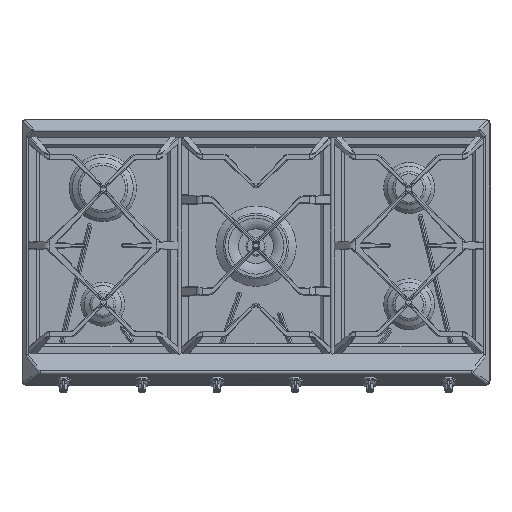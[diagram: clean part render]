
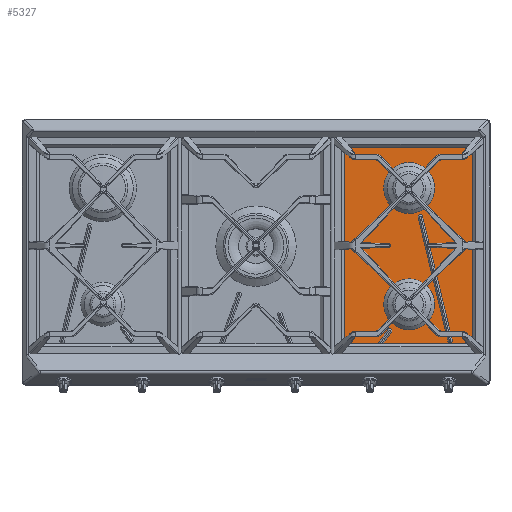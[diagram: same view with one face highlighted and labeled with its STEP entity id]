
A CAD part, top view. The second image highlights one B-rep face of the part: STEP entity #5327.
In plain terms, the highlighted planar face has unit normal (0, 0, 1).
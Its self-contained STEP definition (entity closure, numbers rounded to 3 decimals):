
#1300=LINE('',#31374,#2788);
#1301=LINE('',#31378,#2789);
#1302=LINE('',#31382,#2790);
#1303=LINE('',#31386,#2791);
#1304=LINE('',#31391,#2792);
#1305=LINE('',#31394,#2793);
#1306=LINE('',#31396,#2794);
#1307=LINE('',#31398,#2795);
#2788=VECTOR('',#24484,1.);
#2789=VECTOR('',#24487,1.);
#2790=VECTOR('',#24490,1.);
#2791=VECTOR('',#24493,1.);
#2792=VECTOR('',#24498,1.);
#2793=VECTOR('',#24499,1.);
#2794=VECTOR('',#24500,1.);
#2795=VECTOR('',#24501,1.);
#4692=FACE_BOUND('',#8270,.T.);
#4693=FACE_BOUND('',#8271,.T.);
#4694=FACE_BOUND('',#8272,.T.);
#4695=FACE_BOUND('',#8273,.T.);
#4696=FACE_BOUND('',#8274,.T.);
#5327=ADVANCED_FACE('',(#4692,#4693,#4694,#4695,#4696),#6335,.T.);
#6335=PLANE('',#20852);
#8270=EDGE_LOOP('',(#11098,#11099,#11100,#11101));
#8271=EDGE_LOOP('',(#11102,#11103,#11104,#11105));
#8272=EDGE_LOOP('',(#11106));
#8273=EDGE_LOOP('',(#11107));
#8274=EDGE_LOOP('',(#11108,#11109,#11110,#11111));
#11098=ORIENTED_EDGE('',*,*,#17461,.F.);
#11099=ORIENTED_EDGE('',*,*,#17462,.F.);
#11100=ORIENTED_EDGE('',*,*,#17463,.F.);
#11101=ORIENTED_EDGE('',*,*,#17464,.F.);
#11102=ORIENTED_EDGE('',*,*,#17465,.F.);
#11103=ORIENTED_EDGE('',*,*,#17466,.F.);
#11104=ORIENTED_EDGE('',*,*,#17467,.F.);
#11105=ORIENTED_EDGE('',*,*,#17468,.F.);
#11106=ORIENTED_EDGE('',*,*,#17469,.F.);
#11107=ORIENTED_EDGE('',*,*,#17470,.F.);
#11108=ORIENTED_EDGE('',*,*,#17471,.T.);
#11109=ORIENTED_EDGE('',*,*,#17472,.T.);
#11110=ORIENTED_EDGE('',*,*,#17473,.F.);
#11111=ORIENTED_EDGE('',*,*,#17474,.F.);
#15369=VERTEX_POINT('',#31372);
#15370=VERTEX_POINT('',#31373);
#15371=VERTEX_POINT('',#31375);
#15372=VERTEX_POINT('',#31377);
#15373=VERTEX_POINT('',#31380);
#15374=VERTEX_POINT('',#31381);
#15375=VERTEX_POINT('',#31383);
#15376=VERTEX_POINT('',#31385);
#15377=VERTEX_POINT('',#31388);
#15378=VERTEX_POINT('',#31390);
#15379=VERTEX_POINT('',#31392);
#15380=VERTEX_POINT('',#31393);
#15381=VERTEX_POINT('',#31395);
#15382=VERTEX_POINT('',#31397);
#17461=EDGE_CURVE('',#15369,#15370,#19545,.T.);
#17462=EDGE_CURVE('',#15371,#15369,#1300,.T.);
#17463=EDGE_CURVE('',#15372,#15371,#19546,.T.);
#17464=EDGE_CURVE('',#15370,#15372,#1301,.T.);
#17465=EDGE_CURVE('',#15373,#15374,#19547,.T.);
#17466=EDGE_CURVE('',#15375,#15373,#1302,.T.);
#17467=EDGE_CURVE('',#15376,#15375,#19548,.T.);
#17468=EDGE_CURVE('',#15374,#15376,#1303,.T.);
#17469=EDGE_CURVE('',#15377,#15377,#19549,.T.);
#17470=EDGE_CURVE('',#15378,#15378,#19550,.T.);
#17471=EDGE_CURVE('',#15379,#15380,#1304,.T.);
#17472=EDGE_CURVE('',#15380,#15381,#1305,.T.);
#17473=EDGE_CURVE('',#15382,#15381,#1306,.T.);
#17474=EDGE_CURVE('',#15379,#15382,#1307,.T.);
#19545=CIRCLE('',#20846,4.2);
#19546=CIRCLE('',#20847,4.2);
#19547=CIRCLE('',#20848,4.2);
#19548=CIRCLE('',#20849,4.2);
#19549=CIRCLE('',#20850,48.2);
#19550=CIRCLE('',#20851,48.2);
#20846=AXIS2_PLACEMENT_3D('',#31371,#24482,#24483);
#20847=AXIS2_PLACEMENT_3D('',#31376,#24485,#24486);
#20848=AXIS2_PLACEMENT_3D('',#31379,#24488,#24489);
#20849=AXIS2_PLACEMENT_3D('',#31384,#24491,#24492);
#20850=AXIS2_PLACEMENT_3D('',#31387,#24494,#24495);
#20851=AXIS2_PLACEMENT_3D('',#31389,#24496,#24497);
#20852=AXIS2_PLACEMENT_3D('',#31399,#24502,#24503);
#24482=DIRECTION('',(0.,0.,1.));
#24483=DIRECTION('',(1.,0.,0.));
#24484=DIRECTION('',(0.233,-0.972,0.));
#24485=DIRECTION('',(0.,0.,1.));
#24486=DIRECTION('',(1.,0.,0.));
#24487=DIRECTION('',(-0.233,0.972,0.));
#24488=DIRECTION('',(0.,0.,1.));
#24489=DIRECTION('',(1.,0.,0.));
#24490=DIRECTION('',(-0.588,-0.809,0.));
#24491=DIRECTION('',(0.,0.,1.));
#24492=DIRECTION('',(1.,0.,0.));
#24493=DIRECTION('',(0.588,0.809,0.));
#24494=DIRECTION('',(0.,0.,1.));
#24495=DIRECTION('',(1.,0.,0.));
#24496=DIRECTION('',(0.,0.,1.));
#24497=DIRECTION('',(1.,0.,0.));
#24498=DIRECTION('',(-1.,0.,0.));
#24499=DIRECTION('',(0.,-1.,0.));
#24500=DIRECTION('',(-1.,0.,0.));
#24501=DIRECTION('',(0.,-1.,0.));
#24502=DIRECTION('',(0.,0.,1.));
#24503=DIRECTION('',(1.,0.,0.));
#31371=CARTESIAN_POINT('',(810.2,84.45,13.));
#31372=CARTESIAN_POINT('',(806.116,83.47,13.));
#31373=CARTESIAN_POINT('',(814.284,85.43,13.));
#31374=CARTESIAN_POINT('',(749.972,317.324,13.));
#31375=CARTESIAN_POINT('',(749.972,317.324,13.));
#31376=CARTESIAN_POINT('',(754.056,318.305,13.));
#31377=CARTESIAN_POINT('',(758.14,319.285,13.));
#31378=CARTESIAN_POINT('',(814.284,85.43,13.));
#31379=CARTESIAN_POINT('',(680.,80.1,13.));
#31380=CARTESIAN_POINT('',(676.602,82.569,13.));
#31381=CARTESIAN_POINT('',(683.398,77.631,13.));
#31382=CARTESIAN_POINT('',(692.825,104.898,13.));
#31383=CARTESIAN_POINT('',(692.825,104.898,13.));
#31384=CARTESIAN_POINT('',(696.223,102.429,13.));
#31385=CARTESIAN_POINT('',(699.621,99.96,13.));
#31386=CARTESIAN_POINT('',(683.398,77.631,13.));
#31387=CARTESIAN_POINT('',(733.,153.,13.));
#31388=CARTESIAN_POINT('',(781.2,153.,13.));
#31389=CARTESIAN_POINT('',(733.,373.,13.));
#31390=CARTESIAN_POINT('',(781.2,373.,13.));
#31391=CARTESIAN_POINT('',(0.,462.859,13.));
#31392=CARTESIAN_POINT('',(868.515,462.859,13.));
#31393=CARTESIAN_POINT('',(595.115,462.859,13.));
#31394=CARTESIAN_POINT('',(595.115,483.25,13.));
#31395=CARTESIAN_POINT('',(595.115,65.572,13.));
#31396=CARTESIAN_POINT('',(0.,65.572,13.));
#31397=CARTESIAN_POINT('',(868.515,65.572,13.));
#31398=CARTESIAN_POINT('',(868.515,30.75,13.));
#31399=CARTESIAN_POINT('',(0.,0.,13.));
